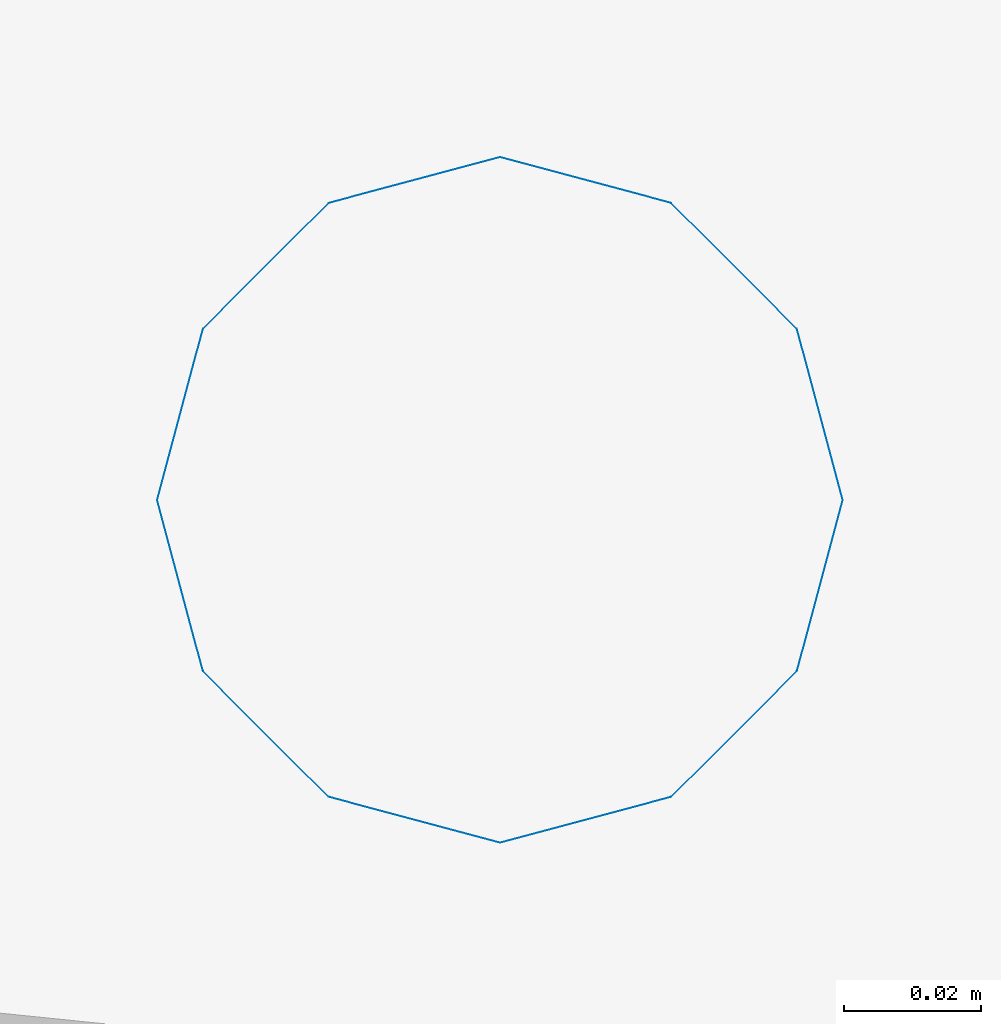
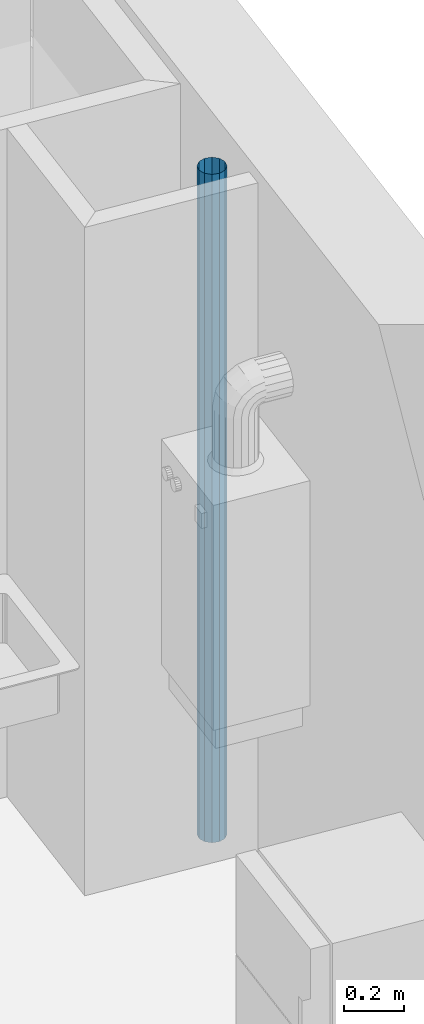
# One storey, part 81 of 164: 1 discrete accessory.
"""IFC2X3 building model written with IfcOpenShell, lengths in millimetres."""

from ifc_helpers import new_model, entity, si_unit, converted_unit, derived_unit, money_unit, direction, frame, origin_with_axes, place, context, subcontext, project, spatial, open_shell, surface_model, source, transform, mapped, type_object, element, save


model = new_model("IFC2X3")

# Units and contexts
model_context = context("Model", 3, precision=0.01, world=origin_with_axes(), true_north=direction((0.0, 1.0)))
body_context = subcontext(model_context, "Body", "Model", "MODEL_VIEW")
ifc_project = project(units=[si_unit("LENGTHUNIT", "METRE", prefix="MILLI"), si_unit("AREAUNIT", "SQUARE_METRE"), si_unit("VOLUMEUNIT", "CUBIC_METRE"), converted_unit("PLANEANGLEUNIT", "DEGREE", entity("IfcPlaneAngleMeasure", 0.0174532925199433), si_unit("PLANEANGLEUNIT", "RADIAN"), dimensions=[0, 0, 0, 0, 0, 0, 0]), money_unit("USD"), converted_unit("TIMEUNIT", "Year", entity("IfcTimeMeasure", 31557600.0), si_unit("TIMEUNIT", "SECOND"), dimensions=[0, 0, 1, 0, 0, 0, 0]), si_unit("MASSUNIT", "GRAM", prefix="KILO"), si_unit("THERMODYNAMICTEMPERATUREUNIT", "DEGREE_CELSIUS"), si_unit("LUMINOUSINTENSITYUNIT", "LUMEN"), si_unit("ENERGYUNIT", "JOULE", prefix="MEGA"), derived_unit("THERMALCONDUCTANCEUNIT", [(si_unit("POWERUNIT", "WATT"), 1), (si_unit("LENGTHUNIT", "METRE"), -1), (si_unit("THERMODYNAMICTEMPERATUREUNIT", "KELVIN"), -1)]), derived_unit("SPECIFICHEATCAPACITYUNIT", [(si_unit("ENERGYUNIT", "JOULE"), 1), (si_unit("MASSUNIT", "GRAM", prefix="KILO"), -1), (si_unit("THERMODYNAMICTEMPERATUREUNIT", "KELVIN"), -1)]), derived_unit("MASSDENSITYUNIT", [(si_unit("MASSUNIT", "GRAM", prefix="KILO"), 1), (si_unit("VOLUMEUNIT", "CUBIC_METRE"), -1)])], contexts=[model_context])

# Site, building, storey
site_placement = place(None, origin_with_axes())
site = spatial("IfcSite", under=ifc_project, at=site_placement, Name="Site", CompositionType="ELEMENT")
building_placement = place(site_placement, origin_with_axes())
building = spatial("IfcBuilding", under=site, at=building_placement, Name="Bâtiment", CompositionType="ELEMENT")
storey_placement = place(building_placement, frame((0.0, 0.0, 5750.0), z_axis=(0.0, 0.0, 1.0), x_axis=(1.0, 0.0, 0.0)))
storey = spatial("IfcBuildingStorey", under=building, at=storey_placement, Name="Etage1", CompositionType="ELEMENT", Elevation=5750.0)

# Discrete accessory
discrete_accessory_type = type_object("IfcDiscreteAccessoryType", Name="Tuyau descente 27")
shared_shape = source(origin_with_axes(), body_context, "Body", "SurfaceModel", [
    surface_model("IfcShellBasedSurfaceModel", [(50.0, 0.0, 2700.0), (43.30127018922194, -25.0, 2700.0), (43.30127018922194, -25.0, 0.0), (50.0, 0.0, 0.0), (25.00000000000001, -43.30127018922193, 2700.0), (25.00000000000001, -43.30127018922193, 0.0), (43.30127018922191, 25.00000000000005, 2700.0), (43.30127018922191, 25.00000000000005, 0.0), (0.0, -50.0, 2700.0), (0.0, -50.0, 0.0), (24.99999999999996, 43.30127018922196, 2700.0), (24.99999999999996, 43.30127018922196, 0.0), (-24.99999999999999, -43.30127018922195, 2700.0), (-24.99999999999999, -43.30127018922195, 0.0), (0.0, 50.0, 2700.0), (0.0, 50.0, 0.0), (-43.30127018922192, -25.00000000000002, 2700.0), (-43.30127018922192, -25.00000000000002, 0.0), (-25.00000000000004, 43.30127018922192, 2700.0), (-25.00000000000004, 43.30127018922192, 0.0), (-50.0, 0.0, 2700.0), (-50.0, 0.0, 0.0), (-43.30127018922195, 24.99999999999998, 2700.0), (-43.30127018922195, 24.99999999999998, 0.0)], [open_shell([[[0, 1, 2, 3]], [[1, 4, 5, 2]], [[6, 0, 3, 7]], [[4, 8, 9, 5]], [[10, 6, 7, 11]], [[8, 12, 13, 9]], [[14, 10, 11, 15]], [[12, 16, 17, 13]], [[18, 14, 15, 19]], [[16, 20, 21, 17]], [[22, 18, 19, 23]], [[20, 22, 23, 21]]])]),
])
discrete_accessory_placement = place(storey_placement, frame((2238913.40214727, -614394.8934090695, 0.0), z_axis=(0.0, 0.0, 1.0), x_axis=(1.0, 0.0, 0.0)))
element("IfcDiscreteAccessory", 1, at=discrete_accessory_placement, inside=storey, type_object=discrete_accessory_type, Name="Obj.-318", context=body_context, shape_type="MappedRepresentation", body=[
    mapped(shared_shape, transform((0.0, 0.0, 0.0))),
])

save(model, "model.ifc")
